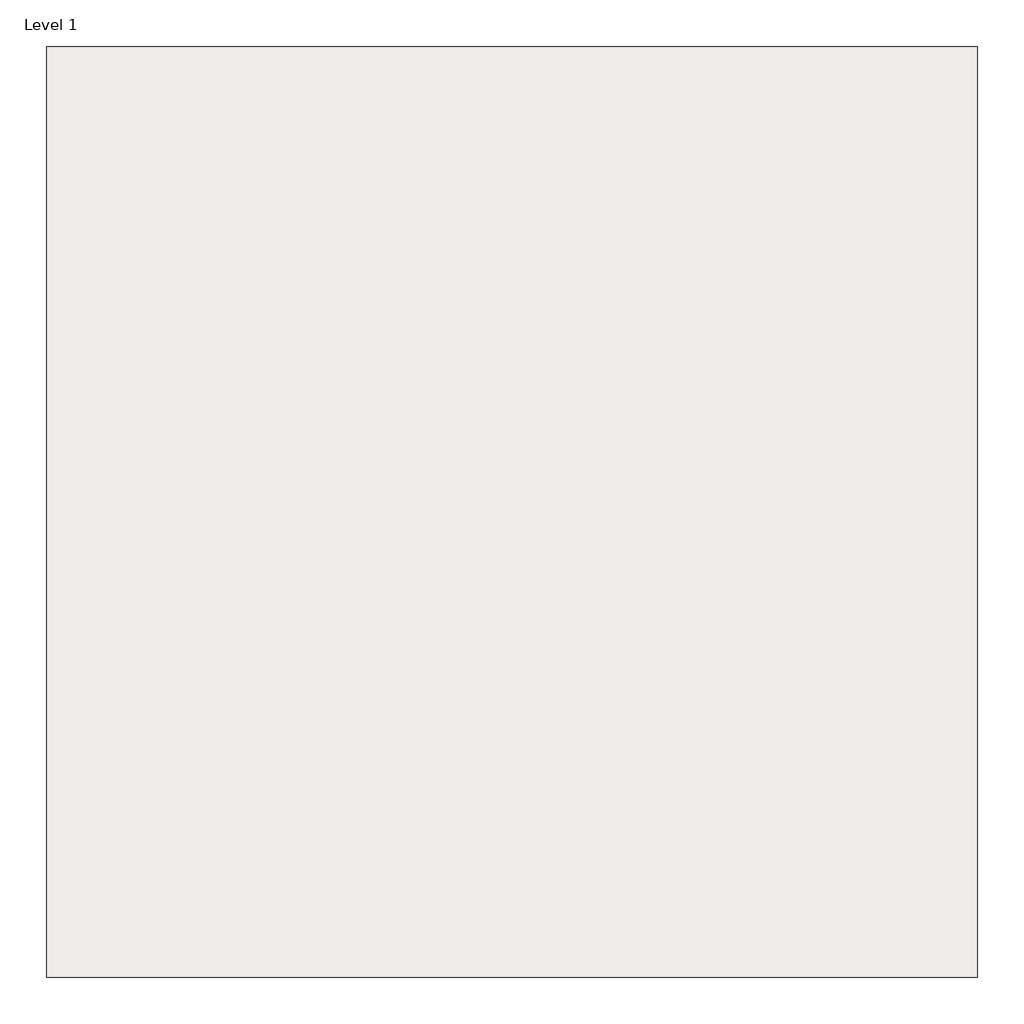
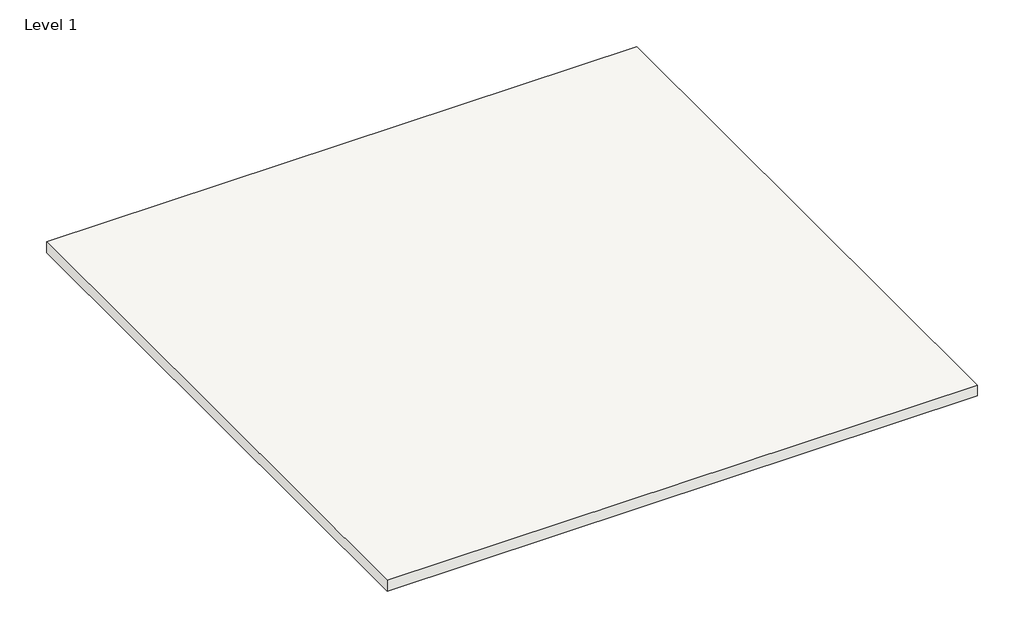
# One storey: 1 covering.
"""IFC4 building model written with IfcOpenShell, lengths in millimetres."""

from ifc_helpers import new_model, si_unit, origin, origin_with_axes, place, context, project, spatial, polyline, outline, extrude, element, save

model = new_model("IFC4")

# Units and contexts
model_context = context("Model", 3, world=origin())
ifc_project = project(units=[si_unit("LENGTHUNIT", "METRE", prefix="MILLI")], contexts=[model_context])

# Site, building, storey
site = spatial("IfcSite", under=ifc_project)
building = spatial("IfcBuilding", under=site)
storey = spatial("IfcBuildingStorey", under=building, Name="Level 1", Elevation=0.0)

# Covering
placement = place(None, origin())
element("IfcCovering", 1, ObjectType="RIGIPS - 4.07.70 - CASOSTAR - REI 90", at=placement, inside=storey, context=model_context, shape_type="SweptSolid", body=[
    extrude(outline(polyline([(-1500.0, 1500.0), (1500.0, 1500.0), (1500.0, -1500.0), (-1500.0, -1500.0), (-1500.0, 1500.0)])), origin_with_axes(), (0.0, 0.0, 1.0), 58.0),
])

save(model, "model.ifc")
